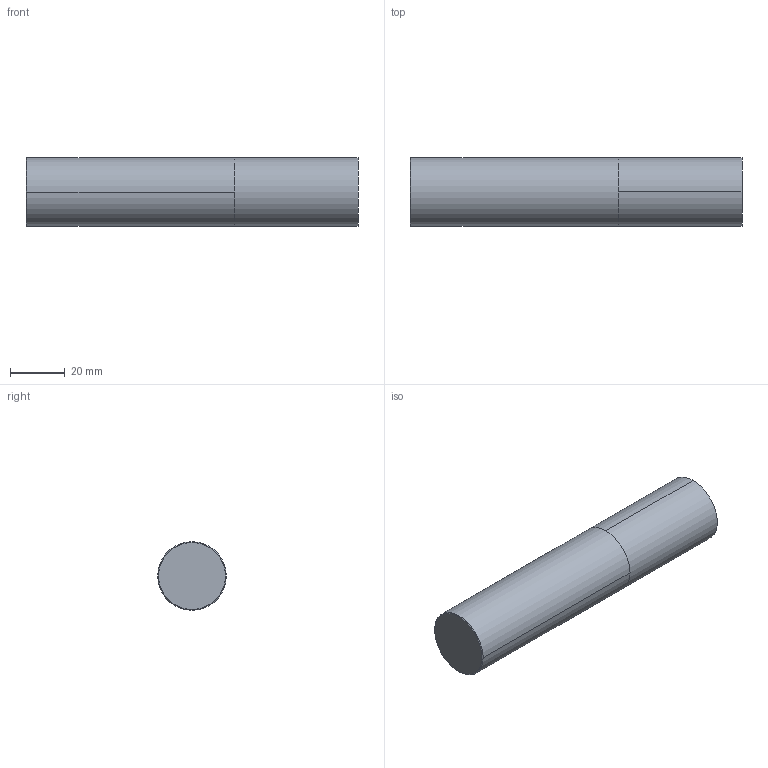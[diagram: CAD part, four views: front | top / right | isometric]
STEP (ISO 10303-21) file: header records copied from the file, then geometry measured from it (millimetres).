
FILE_DESCRIPTION (( 'STEP AP214' ), '1' );
FILE_NAME ('E599940663.STEP', '2021-02-19T09:00:58', ( 'USER' ), ( 'Hewlett-Packard Company' ), 'SwSTEP 2.0', 'SolidWorks 2014', '' );
FILE_SCHEMA (( 'AUTOMOTIVE_DESIGN' ));
Length unit declared in the file: millimetre
Products named in the file (1): E599940663
Bounding box: 121 x 25 x 25 mm (x, y, z)
Volume: 59392.2 mm3; surface area: 11452.9 mm2
Topology: 2 solids, 2 shells, 10 faces, 16 edges, 10 vertices
Faces by surface type: cylinder 4, plane 4, cone 2
Entity records: 321 total; most frequent: DIRECTION 48, CARTESIAN_POINT 37, ORIENTED_EDGE 32, AXIS2_PLACEMENT_3D 21, EDGE_CURVE 16, FACE_OUTER_BOUND 10, ADVANCED_FACE 10, CIRCLE 10
